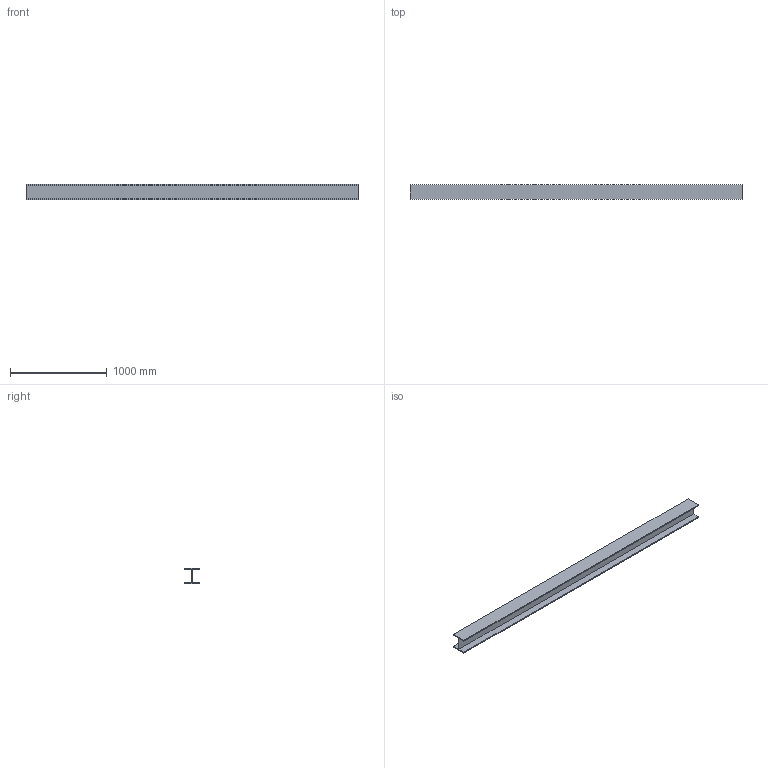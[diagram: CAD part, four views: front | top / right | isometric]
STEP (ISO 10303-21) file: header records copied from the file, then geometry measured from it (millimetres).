
FILE_DESCRIPTION(('Open CASCADE Model'),'2;1');
FILE_NAME('Open CASCADE Shape Model','2026-09-19T12:55:25',('Author'),( 'Open CASCADE'),'Open CASCADE STEP processor 7.9','Open CASCADE 7.9' ,'Unknown');
FILE_SCHEMA(('AUTOMOTIVE_DESIGN { 1 0 10303 214 1 1 1 1 }'));
Length unit declared in the file: millimetre
Products named in the file (1): Open CASCADE STEP translator 7.9 478
Bounding box: 3430 x 154 x 162 mm (x, y, z)
Volume: 16110984.4 mm3; surface area: 3178028.2 mm2
Topology: 1 solids, 1 shells, 14 faces, 36 edges, 24 vertices
Faces by surface type: plane 14
Entity records: 898 total; most frequent: CARTESIAN_POINT 147, DIRECTION 138, LINE 108, VECTOR 108, ORIENTED_EDGE 72, PCURVE 72, DEFINITIONAL_REPRESENTATION 72, EDGE_CURVE 36
